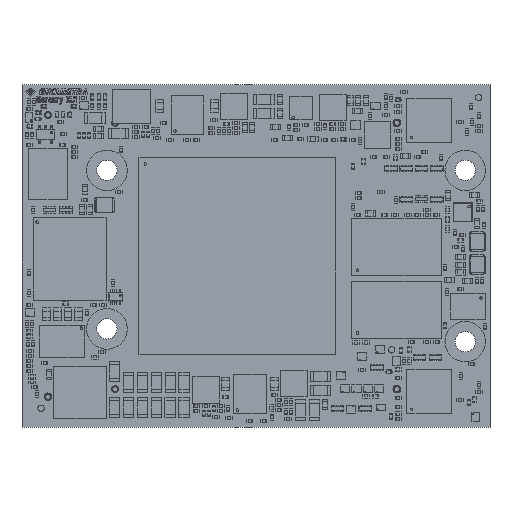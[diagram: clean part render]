
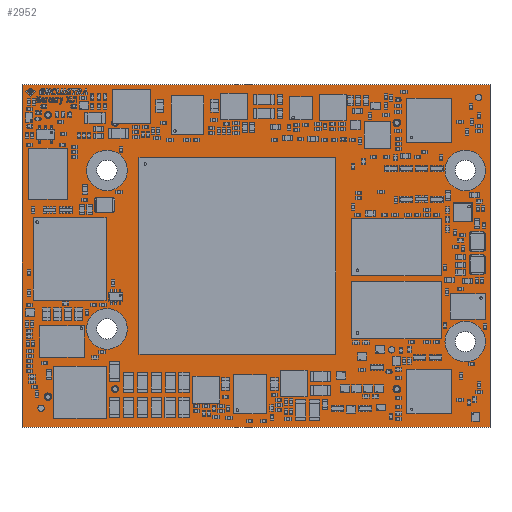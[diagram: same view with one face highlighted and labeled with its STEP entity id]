
A CAD part, top view. The second image highlights one B-rep face of the part: STEP entity #2952.
In plain terms, the highlighted planar face has unit normal (0, 0, 1).
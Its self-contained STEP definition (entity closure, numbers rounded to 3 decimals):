
#2463 = VERTEX_POINT('',#2464);
#2464 = CARTESIAN_POINT('',(0.,0.,0.));
#2470 = EDGE_CURVE('',#2463,#2471,#2473,.T.);
#2471 = VERTEX_POINT('',#2472);
#2472 = CARTESIAN_POINT('',(73.8,0.,0.));
#2473 = LINE('',#2474,#2475);
#2474 = CARTESIAN_POINT('',(0.,0.,0.));
#2475 = VECTOR('',#2476,1.);
#2476 = DIRECTION('',(1.,0.,0.));
#2501 = EDGE_CURVE('',#2471,#2502,#2504,.T.);
#2502 = VERTEX_POINT('',#2503);
#2503 = CARTESIAN_POINT('',(73.8,54.,0.));
#2504 = LINE('',#2505,#2506);
#2505 = CARTESIAN_POINT('',(73.8,0.,0.));
#2506 = VECTOR('',#2507,1.);
#2507 = DIRECTION('',(0.,1.,0.));
#2532 = EDGE_CURVE('',#2502,#2533,#2535,.T.);
#2533 = VERTEX_POINT('',#2534);
#2534 = CARTESIAN_POINT('',(0.,54.,0.));
#2535 = LINE('',#2536,#2537);
#2536 = CARTESIAN_POINT('',(73.8,54.,0.));
#2537 = VECTOR('',#2538,1.);
#2538 = DIRECTION('',(-1.,0.,0.));
#2563 = EDGE_CURVE('',#2533,#2463,#2564,.T.);
#2564 = LINE('',#2565,#2566);
#2565 = CARTESIAN_POINT('',(0.,54.,0.));
#2566 = VECTOR('',#2567,1.);
#2567 = DIRECTION('',(0.,-1.,0.));
#2587 = VERTEX_POINT('',#2588);
#2588 = CARTESIAN_POINT('',(4.7,4.8,0.));
#2594 = EDGE_CURVE('',#2587,#2587,#2595,.T.);
#2595 = CIRCLE('',#2596,0.6);
#2596 = AXIS2_PLACEMENT_3D('',#2597,#2598,#2599);
#2597 = CARTESIAN_POINT('',(4.1,4.8,0.));
#2598 = DIRECTION('',(0.,0.,1.));
#2599 = DIRECTION('',(1.,0.,0.));
#2620 = VERTEX_POINT('',#2621);
#2621 = CARTESIAN_POINT('',(15.25,6.,0.));
#2627 = EDGE_CURVE('',#2620,#2620,#2628,.T.);
#2628 = CIRCLE('',#2629,0.55);
#2629 = AXIS2_PLACEMENT_3D('',#2630,#2631,#2632);
#2630 = CARTESIAN_POINT('',(14.7,6.,0.));
#2631 = DIRECTION('',(0.,0.,1.));
#2632 = DIRECTION('',(1.,0.,0.));
#2653 = VERTEX_POINT('',#2654);
#2654 = CARTESIAN_POINT('',(4.65,49.2,0.));
#2660 = EDGE_CURVE('',#2653,#2653,#2661,.T.);
#2661 = CIRCLE('',#2662,0.55);
#2662 = AXIS2_PLACEMENT_3D('',#2663,#2664,#2665);
#2663 = CARTESIAN_POINT('',(4.1,49.2,0.));
#2664 = DIRECTION('',(0.,0.,1.));
#2665 = DIRECTION('',(1.,0.,0.));
#2686 = VERTEX_POINT('',#2687);
#2687 = CARTESIAN_POINT('',(15.,15.5,0.));
#2693 = EDGE_CURVE('',#2686,#2686,#2694,.T.);
#2694 = CIRCLE('',#2695,1.6);
#2695 = AXIS2_PLACEMENT_3D('',#2696,#2697,#2698);
#2696 = CARTESIAN_POINT('',(13.4,15.5,0.));
#2697 = DIRECTION('',(0.,0.,1.));
#2698 = DIRECTION('',(1.,0.,0.));
#2719 = VERTEX_POINT('',#2720);
#2720 = CARTESIAN_POINT('',(15.,40.5,0.));
#2726 = EDGE_CURVE('',#2719,#2719,#2727,.T.);
#2727 = CIRCLE('',#2728,1.6);
#2728 = AXIS2_PLACEMENT_3D('',#2729,#2730,#2731);
#2729 = CARTESIAN_POINT('',(13.4,40.5,0.));
#2730 = DIRECTION('',(0.,0.,1.));
#2731 = DIRECTION('',(1.,0.,0.));
#2752 = VERTEX_POINT('',#2753);
#2753 = CARTESIAN_POINT('',(59.7,6.,0.));
#2759 = EDGE_CURVE('',#2752,#2752,#2760,.T.);
#2760 = CIRCLE('',#2761,0.6);
#2761 = AXIS2_PLACEMENT_3D('',#2762,#2763,#2764);
#2762 = CARTESIAN_POINT('',(59.1,6.,0.));
#2763 = DIRECTION('',(0.,0.,1.));
#2764 = DIRECTION('',(1.,0.,0.));
#2785 = VERTEX_POINT('',#2786);
#2786 = CARTESIAN_POINT('',(71.5,13.5,0.));
#2792 = EDGE_CURVE('',#2785,#2785,#2793,.T.);
#2793 = CIRCLE('',#2794,1.6);
#2794 = AXIS2_PLACEMENT_3D('',#2795,#2796,#2797);
#2795 = CARTESIAN_POINT('',(69.9,13.5,0.));
#2796 = DIRECTION('',(0.,0.,1.));
#2797 = DIRECTION('',(1.,0.,0.));
#2818 = VERTEX_POINT('',#2819);
#2819 = CARTESIAN_POINT('',(15.25,48.,0.));
#2825 = EDGE_CURVE('',#2818,#2818,#2826,.T.);
#2826 = CIRCLE('',#2827,0.55);
#2827 = AXIS2_PLACEMENT_3D('',#2828,#2829,#2830);
#2828 = CARTESIAN_POINT('',(14.7,48.,0.));
#2829 = DIRECTION('',(0.,0.,1.));
#2830 = DIRECTION('',(1.,0.,0.));
#2851 = VERTEX_POINT('',#2852);
#2852 = CARTESIAN_POINT('',(71.5,40.5,0.));
#2858 = EDGE_CURVE('',#2851,#2851,#2859,.T.);
#2859 = CIRCLE('',#2860,1.6);
#2860 = AXIS2_PLACEMENT_3D('',#2861,#2862,#2863);
#2861 = CARTESIAN_POINT('',(69.9,40.5,0.));
#2862 = DIRECTION('',(0.,0.,1.));
#2863 = DIRECTION('',(1.,0.,0.));
#2884 = VERTEX_POINT('',#2885);
#2885 = CARTESIAN_POINT('',(59.7,48.,0.));
#2891 = EDGE_CURVE('',#2884,#2884,#2892,.T.);
#2892 = CIRCLE('',#2893,0.6);
#2893 = AXIS2_PLACEMENT_3D('',#2894,#2895,#2896);
#2894 = CARTESIAN_POINT('',(59.1,48.,0.));
#2895 = DIRECTION('',(0.,0.,1.));
#2896 = DIRECTION('',(1.,0.,0.));
#2952 = ADVANCED_FACE('',(#2953,#2959,#2962,#2965,#2968,#2971,#2974,
    #2977,#2980,#2983,#2986),#2989,.F.);
#2953 = FACE_BOUND('',#2954,.T.);
#2954 = EDGE_LOOP('',(#2955,#2956,#2957,#2958));
#2955 = ORIENTED_EDGE('',*,*,#2470,.T.);
#2956 = ORIENTED_EDGE('',*,*,#2501,.T.);
#2957 = ORIENTED_EDGE('',*,*,#2532,.T.);
#2958 = ORIENTED_EDGE('',*,*,#2563,.T.);
#2959 = FACE_BOUND('',#2960,.F.);
#2960 = EDGE_LOOP('',(#2961));
#2961 = ORIENTED_EDGE('',*,*,#2594,.T.);
#2962 = FACE_BOUND('',#2963,.F.);
#2963 = EDGE_LOOP('',(#2964));
#2964 = ORIENTED_EDGE('',*,*,#2627,.T.);
#2965 = FACE_BOUND('',#2966,.F.);
#2966 = EDGE_LOOP('',(#2967));
#2967 = ORIENTED_EDGE('',*,*,#2660,.T.);
#2968 = FACE_BOUND('',#2969,.F.);
#2969 = EDGE_LOOP('',(#2970));
#2970 = ORIENTED_EDGE('',*,*,#2693,.T.);
#2971 = FACE_BOUND('',#2972,.F.);
#2972 = EDGE_LOOP('',(#2973));
#2973 = ORIENTED_EDGE('',*,*,#2726,.T.);
#2974 = FACE_BOUND('',#2975,.F.);
#2975 = EDGE_LOOP('',(#2976));
#2976 = ORIENTED_EDGE('',*,*,#2759,.T.);
#2977 = FACE_BOUND('',#2978,.F.);
#2978 = EDGE_LOOP('',(#2979));
#2979 = ORIENTED_EDGE('',*,*,#2792,.T.);
#2980 = FACE_BOUND('',#2981,.F.);
#2981 = EDGE_LOOP('',(#2982));
#2982 = ORIENTED_EDGE('',*,*,#2825,.T.);
#2983 = FACE_BOUND('',#2984,.F.);
#2984 = EDGE_LOOP('',(#2985));
#2985 = ORIENTED_EDGE('',*,*,#2858,.T.);
#2986 = FACE_BOUND('',#2987,.F.);
#2987 = EDGE_LOOP('',(#2988));
#2988 = ORIENTED_EDGE('',*,*,#2891,.T.);
#2989 = PLANE('',#2990);
#2990 = AXIS2_PLACEMENT_3D('',#2991,#2992,#2993);
#2991 = CARTESIAN_POINT('',(0.,0.,0.));
#2992 = DIRECTION('',(0.,0.,-1.));
#2993 = DIRECTION('',(-1.,0.,0.));
